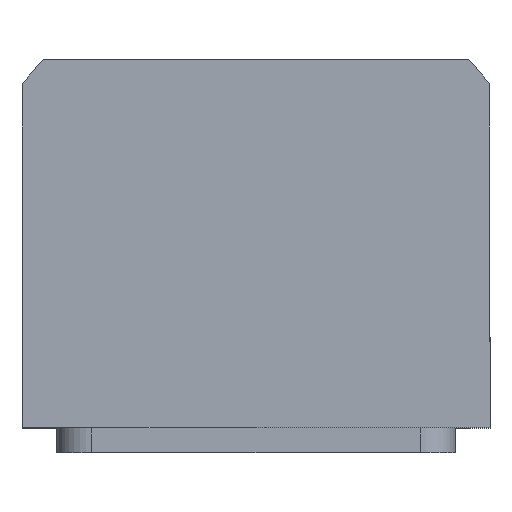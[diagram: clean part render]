
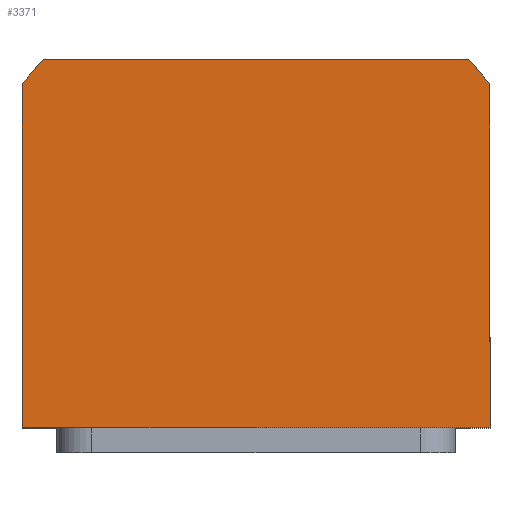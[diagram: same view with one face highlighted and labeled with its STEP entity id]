
A CAD part, top view. The second image highlights one B-rep face of the part: STEP entity #3371.
In plain terms, the highlighted planar face has unit normal (0, 0, 1).
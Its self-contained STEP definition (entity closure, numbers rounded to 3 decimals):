
#112 = AXIS2_PLACEMENT_3D ( 'NONE', #11351, #12348, #4364 ) ;
#605 = DIRECTION ( 'NONE',  ( -1., 0., 0. ) ) ;
#1537 = DIRECTION ( 'NONE',  ( 1., 0., 0. ) ) ;
#1687 = CARTESIAN_POINT ( 'NONE',  ( -42.688, 40., 32.5 ) ) ;
#2128 = VECTOR ( 'NONE', #14893, 1000. ) ;
#2146 = CARTESIAN_POINT ( 'NONE',  ( 47., 34.832, 32.5 ) ) ;
#2544 = CARTESIAN_POINT ( 'NONE',  ( -47., -34., 32.5 ) ) ;
#2667 = VECTOR ( 'NONE', #1537, 1000. ) ;
#2991 = FACE_OUTER_BOUND ( 'NONE', #13410, .T. ) ;
#3369 = VECTOR ( 'NONE', #605, 1000. ) ;
#3371 = ADVANCED_FACE ( 'NONE', ( #2991 ), #10166, .T. ) ;
#3500 = CARTESIAN_POINT ( 'NONE',  ( 0., 0., 32.5 ) ) ;
#3599 = CIRCLE ( 'NONE', #12003, 58.5 ) ;
#3899 = DIRECTION ( 'NONE',  ( 1., 0., 0. ) ) ;
#3952 = CARTESIAN_POINT ( 'NONE',  ( -47., 34.832, 32.5 ) ) ;
#4027 = CARTESIAN_POINT ( 'NONE',  ( 47., 34.832, 32.5 ) ) ;
#4047 = CARTESIAN_POINT ( 'NONE',  ( 42.688, 40., 32.5 ) ) ;
#4353 = CARTESIAN_POINT ( 'NONE',  ( 47., -34., 32.5 ) ) ;
#4364 = DIRECTION ( 'NONE',  ( 1., 0., 0. ) ) ;
#4566 = EDGE_CURVE ( 'NONE', #14053, #6990, #11728, .T. ) ;
#4863 = DIRECTION ( 'NONE',  ( 1., 0., 0. ) ) ;
#5066 = EDGE_CURVE ( 'NONE', #12356, #14592, #7876, .T. ) ;
#5538 = ORIENTED_EDGE ( 'NONE', *, *, #6030, .T. ) ;
#5793 = LINE ( 'NONE', #7361, #2667 ) ;
#5852 = ORIENTED_EDGE ( 'NONE', *, *, #14250, .T. ) ;
#6030 = EDGE_CURVE ( 'NONE', #6990, #15097, #7252, .T. ) ;
#6258 = ORIENTED_EDGE ( 'NONE', *, *, #5066, .T. ) ;
#6990 = VERTEX_POINT ( 'NONE', #3952 ) ;
#7252 = LINE ( 'NONE', #10238, #2128 ) ;
#7361 = CARTESIAN_POINT ( 'NONE',  ( 47., -34., 32.5 ) ) ;
#7771 = EDGE_CURVE ( 'NONE', #15097, #12356, #5793, .T. ) ;
#7876 = LINE ( 'NONE', #2146, #8235 ) ;
#8235 = VECTOR ( 'NONE', #15059, 1000. ) ;
#8745 = CARTESIAN_POINT ( 'NONE',  ( -42.688, 40., 32.5 ) ) ;
#9332 = VERTEX_POINT ( 'NONE', #4047 ) ;
#10166 = PLANE ( 'NONE',  #112 ) ;
#10238 = CARTESIAN_POINT ( 'NONE',  ( -47., -34., 32.5 ) ) ;
#10314 = EDGE_CURVE ( 'NONE', #14592, #9332, #3599, .T. ) ;
#10930 = CARTESIAN_POINT ( 'NONE',  ( 0., 0., 32.5 ) ) ;
#11280 = ORIENTED_EDGE ( 'NONE', *, *, #7771, .T. ) ;
#11351 = CARTESIAN_POINT ( 'NONE',  ( 0., 0., 32.5 ) ) ;
#11710 = DIRECTION ( 'NONE',  ( 0., 0., 1. ) ) ;
#11728 = CIRCLE ( 'NONE', #14691, 58.5 ) ;
#12003 = AXIS2_PLACEMENT_3D ( 'NONE', #10930, #13239, #3899 ) ;
#12348 = DIRECTION ( 'NONE',  ( 0., 0., 1. ) ) ;
#12356 = VERTEX_POINT ( 'NONE', #4353 ) ;
#12404 = ORIENTED_EDGE ( 'NONE', *, *, #4566, .T. ) ;
#12683 = LINE ( 'NONE', #1687, #3369 ) ;
#13239 = DIRECTION ( 'NONE',  ( 0., 0., 1. ) ) ;
#13410 = EDGE_LOOP ( 'NONE', ( #11280, #6258, #15003, #5852, #12404, #5538 ) ) ;
#14053 = VERTEX_POINT ( 'NONE', #8745 ) ;
#14250 = EDGE_CURVE ( 'NONE', #9332, #14053, #12683, .T. ) ;
#14592 = VERTEX_POINT ( 'NONE', #4027 ) ;
#14691 = AXIS2_PLACEMENT_3D ( 'NONE', #3500, #11710, #4863 ) ;
#14893 = DIRECTION ( 'NONE',  ( 0., -1., 0. ) ) ;
#15003 = ORIENTED_EDGE ( 'NONE', *, *, #10314, .T. ) ;
#15059 = DIRECTION ( 'NONE',  ( 0., 1., 0. ) ) ;
#15097 = VERTEX_POINT ( 'NONE', #2544 ) ;
